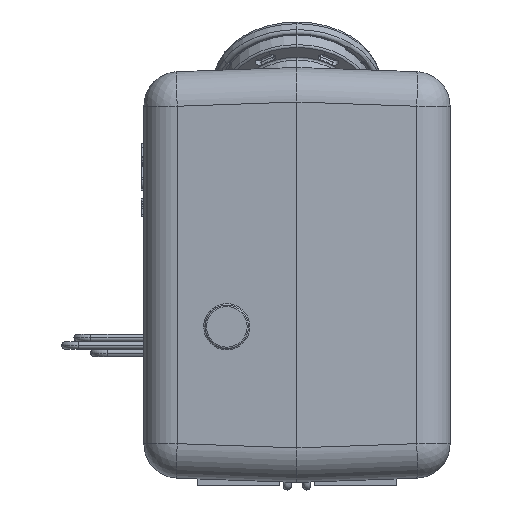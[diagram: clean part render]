
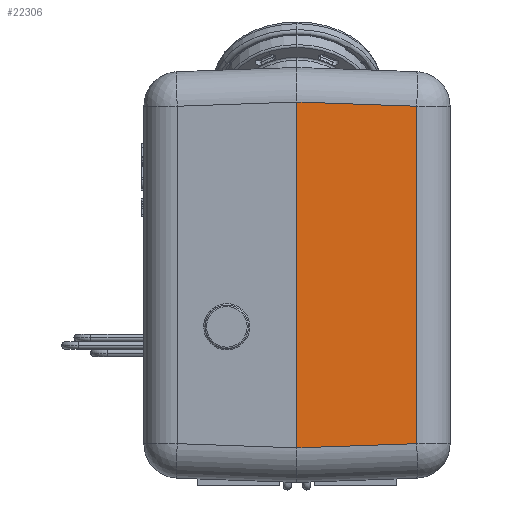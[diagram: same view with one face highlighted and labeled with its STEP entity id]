
A CAD part, front view. The second image highlights one B-rep face of the part: STEP entity #22306.
In plain terms, the highlighted planar face has unit normal (0.035, -0.999, 0).
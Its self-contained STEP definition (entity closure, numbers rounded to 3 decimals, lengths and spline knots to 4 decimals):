
#6227=DIRECTION('',(0.,0.,1.));
#6228=VECTOR('',#6227,4.8796);
#6229=CARTESIAN_POINT('',(1.7324,-9.1665,
-1.4198));
#6230=LINE('',#6229,#6228);
#6235=DIRECTION('',(0.999,0.035,0.035));
#6236=VECTOR('',#6235,1.7346);
#6237=CARTESIAN_POINT('',(0.,-9.227,-1.4803));
#6238=LINE('',#6237,#6236);
#6239=DIRECTION('',(-0.999,-0.035,0.035));
#6240=VECTOR('',#6239,1.7346);
#6241=CARTESIAN_POINT('',(1.7324,-9.1665,3.4598));
#6242=LINE('',#6241,#6240);
#6320=DIRECTION('',(0.,0.,1.));
#6321=VECTOR('',#6320,5.0006);
#6322=CARTESIAN_POINT('',(0.,-9.227,-1.4803));
#6323=LINE('',#6322,#6321);
#16203=CARTESIAN_POINT('',(1.7324,-9.1665,
3.4598));
#16204=VERTEX_POINT('',#16203);
#16205=CARTESIAN_POINT('',(1.7324,-9.1665,
-1.4198));
#16206=VERTEX_POINT('',#16205);
#16207=CARTESIAN_POINT('',(0.,-9.227,-1.4803));
#16208=VERTEX_POINT('',#16207);
#16209=CARTESIAN_POINT('',(0.,-9.227,3.5203));
#16210=VERTEX_POINT('',#16209);
#22293=CARTESIAN_POINT('',(0.8662,-9.1968,1.02));
#22294=DIRECTION('',(-0.035,0.999,0.));
#22295=DIRECTION('',(0.,0.,1.));
#22296=AXIS2_PLACEMENT_3D('',#22293,#22294,#22295);
#22297=PLANE('',#22296);
#22298=ORIENTED_EDGE('',*,*,#22284,.F.);
#22300=ORIENTED_EDGE('',*,*,#22299,.F.);
#22302=ORIENTED_EDGE('',*,*,#22301,.T.);
#22303=ORIENTED_EDGE('',*,*,#22260,.F.);
#22304=EDGE_LOOP('',(#22298,#22300,#22302,#22303));
#22305=FACE_OUTER_BOUND('',#22304,.F.);
#22306=ADVANCED_FACE('',(#22305),#22297,.F.);
#22260=EDGE_CURVE('',#16204,#16210,#6242,.T.);
#22284=EDGE_CURVE('',#16206,#16204,#6230,.T.);
#22299=EDGE_CURVE('',#16208,#16206,#6238,.T.);
#22301=EDGE_CURVE('',#16208,#16210,#6323,.T.);
